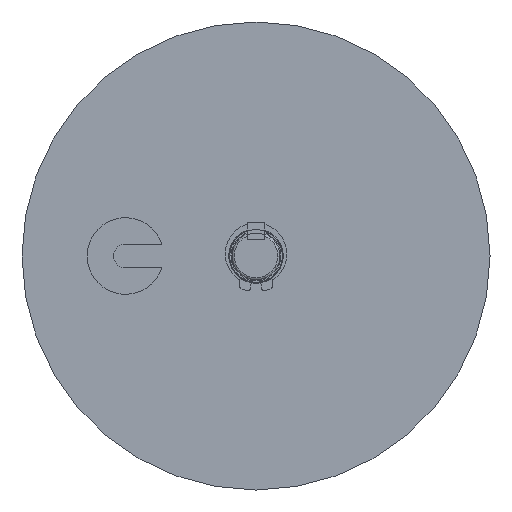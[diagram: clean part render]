
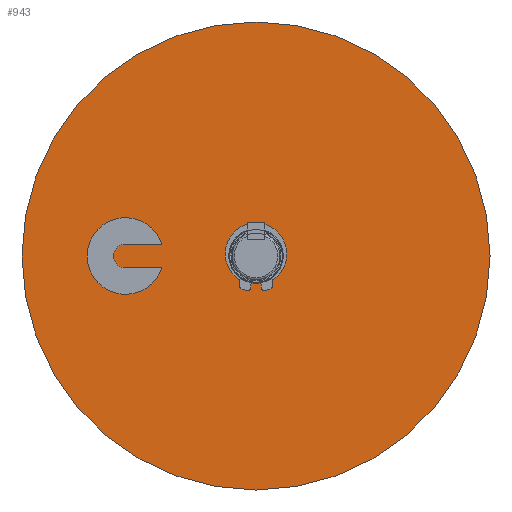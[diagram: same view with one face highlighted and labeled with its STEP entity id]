
A CAD part, front view. The second image highlights one B-rep face of the part: STEP entity #943.
In plain terms, the highlighted planar face has unit normal (0, -1, 0).
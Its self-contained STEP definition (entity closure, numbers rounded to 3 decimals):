
#886=CARTESIAN_POINT('',(9.508,79.149,0.));
#887=DIRECTION('',(0.,1.,0.));
#888=DIRECTION('',(0.,0.,1.));
#889=AXIS2_PLACEMENT_3D('',#886,#887,#888);
#891=CARTESIAN_POINT('',(9.508,79.149,0.));
#892=DIRECTION('',(0.,1.,0.));
#893=DIRECTION('',(0.,0.,-1.));
#894=AXIS2_PLACEMENT_3D('',#891,#892,#893);
#900=CARTESIAN_POINT('',(9.508,79.149,107.5));
#901=VERTEX_POINT('',#900);
#902=CARTESIAN_POINT('',(9.508,79.149,-107.5));
#903=VERTEX_POINT('',#902);
#934=CARTESIAN_POINT('',(9.508,79.149,0.));
#935=DIRECTION('',(0.,1.,0.));
#936=DIRECTION('',(0.,0.,1.));
#937=AXIS2_PLACEMENT_3D('',#934,#935,#936);
#938=PLANE('',#937);
#939=ORIENTED_EDGE('',*,*,#928,.T.);
#940=ORIENTED_EDGE('',*,*,#911,.T.);
#941=EDGE_LOOP('',(#939,#940));
#942=FACE_OUTER_BOUND('',#941,.F.);
#943=ADVANCED_FACE('',(#942),#938,.F.);
#890=CIRCLE('',#889,107.5);
#895=CIRCLE('',#894,107.5);
#911=EDGE_CURVE('',#903,#901,#895,.T.);
#928=EDGE_CURVE('',#901,#903,#890,.T.);
